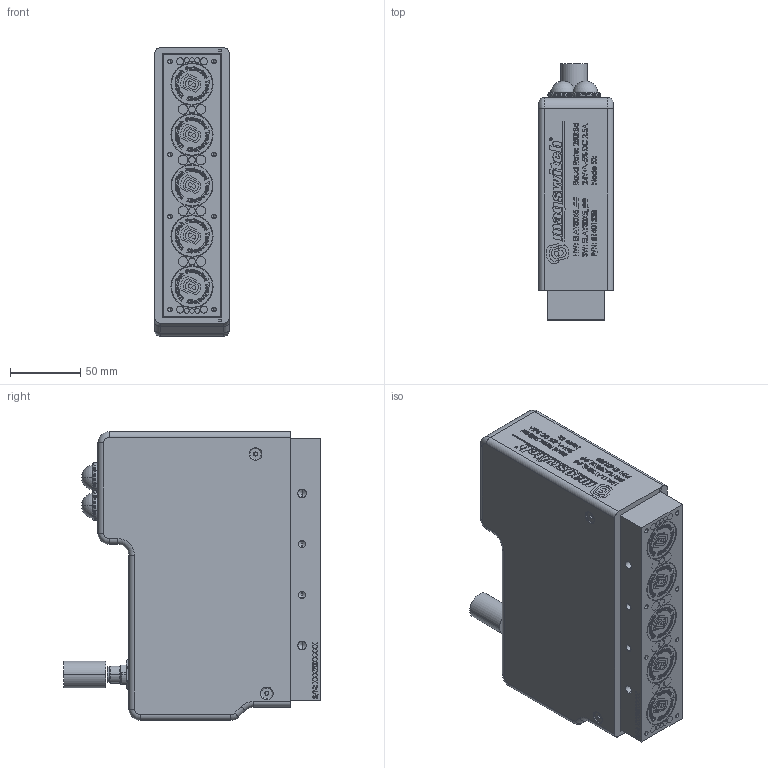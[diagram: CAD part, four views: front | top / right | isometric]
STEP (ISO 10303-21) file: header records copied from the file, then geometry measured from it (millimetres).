
FILE_DESCRIPTION (( 'STEP AP214' ), '1' );
FILE_NAME ('81401338_CFM.STEP', '2024-07-31T19:52:44', ( '' ), ( '' ), 'SwSTEP 2.0', 'SolidWorks 2022', '' );
FILE_SCHEMA (( 'AUTOMOTIVE_DESIGN' ));
Length unit declared in the file: millimetre
Products named in the file (1): 81401338_CFM
Bounding box: 53 x 182.3 x 205 mm (x, y, z)
Volume: 1486707.9 mm3; surface area: 121846.2 mm2
Topology: 18 solids, 51 shells, 5279 faces, 14089 edges, 9270 vertices
Faces by surface type: plane 2569, bspline 1751, cylinder 679, cone 192, torus 64, sphere 24
Entity records: 306735 total; most frequent: CARTESIAN_POINT 130925, ORIENTED_EDGE 28030, DIRECTION 17806, EDGE_CURVE 14015, VERTEX_POINT 9261, LINE 8570, VECTOR 8570, EDGE_LOOP 5758
